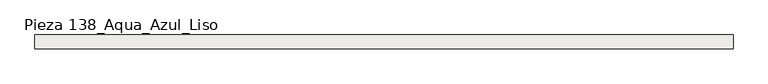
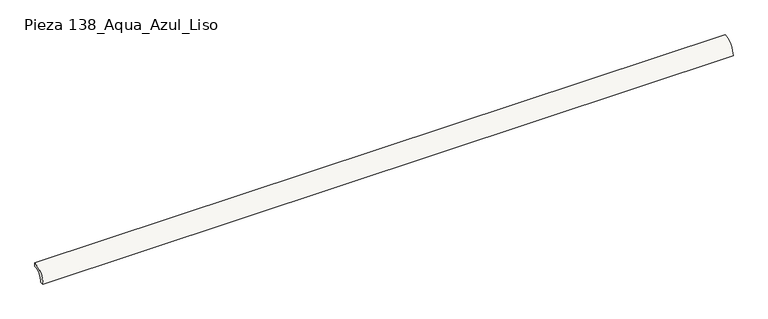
"""IFC4 building model written with IfcOpenShell, lengths in millimetres: slab geometry, ROSA GRES_138 : Pieza 138_Aqua_Azul_Liso."""

from ifc_helpers import new_model, si_unit, point, frame, frame_2d, origin, origin_2d, place, context, project, spatial, polyline, circle_curve, trimmed, segment, composite_curve, outline, extrude, source, transform, mapped, element, save


def pieza_138_aqua_azul_liso_8d88db99(model_context):
    return source(origin(), model_context, "Body", "SweptSolid", [
        extrude(outline(composite_curve([segment(polyline([(0.0, 40.0), (0.0, 30.0265886)]), True, "CONTINUOUS"), segment(trimmed(circle_curve(frame_2d((-0.0044453, 0.0044453)), 30.0221435), [point((0.0, 30.0265886))], [point((-30.0265886, 0.0))], True, "CARTESIAN"), True, "CONTINUOUS"), segment(polyline([(-30.0265886, 0.0), (-40.0, 0.0)]), True, "CONTINUOUS"), segment(trimmed(circle_curve(origin_2d(), 40.0), [point((-40.0, 0.0))], [point((0.0, 40.0))], False, "CARTESIAN"), True, "CONTINUOUS")], self_intersect=False)), frame((0.0, 0.0, 0.0), z_axis=(1.0, 0.0, 0.0), x_axis=(0.0, 1.0, 0.0)), (0.0, 0.0, 1.0), 1992.6510349),
    ])


if __name__ == "__main__":
    model = new_model("IFC4")
    model_context = context("Model", 3, world=origin())
    ifc_project = project(units=[si_unit("LENGTHUNIT", "METRE", prefix="MILLI")], contexts=[model_context])
    site = spatial("IfcSite", under=ifc_project)
    building = spatial("IfcBuilding", under=site)
    placement = place(None, origin())
    pieza_138_aqua_azul_liso_shape = pieza_138_aqua_azul_liso_8d88db99(model_context)
    element("IfcSlab", 1, ObjectType="ROSA GRES_138 : Pieza 138_Aqua_Azul_Liso", at=placement, inside=building, context=model_context, shape_type="MappedRepresentation", body=[
        mapped(pieza_138_aqua_azul_liso_shape, transform((0.0, 0.0, 0.0), x_axis=(1.0, 0.0, 0.0), y_axis=(0.0, 1.0, 0.0), z_axis=(0.0, 0.0, 1.0))),
    ])
    save(model, "model.ifc")
